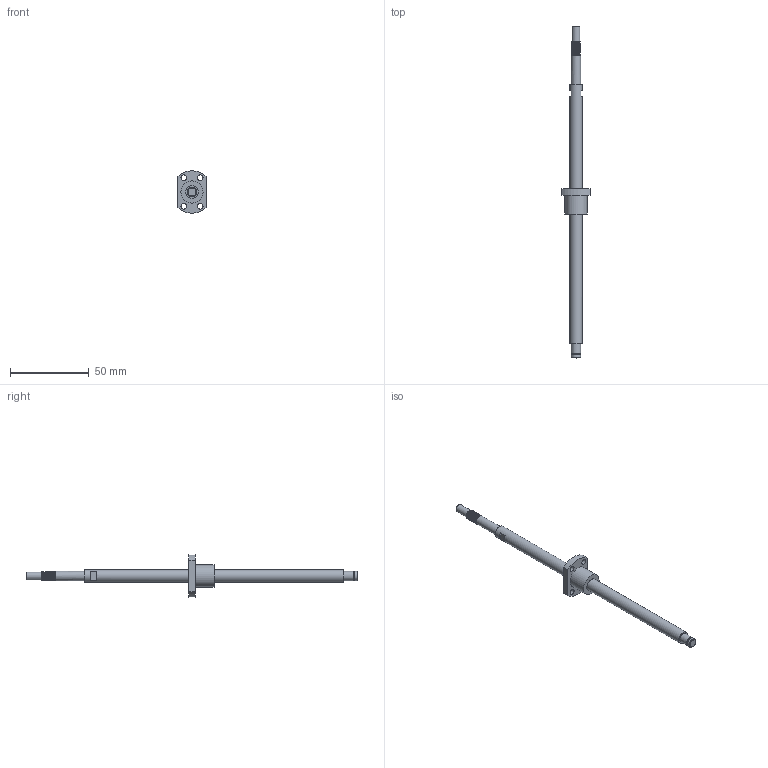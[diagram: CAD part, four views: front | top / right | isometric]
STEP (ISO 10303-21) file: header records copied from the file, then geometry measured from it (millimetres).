
FILE_DESCRIPTION(/* description */ (''),/* implementation_level */ '2;1');
FILE_NAME(/* name */ 'BSG25_asm1.stp',/* time_stamp */ '2017-01-06T13:26:22+08:00',/* author */ (''),/* organization */ (''),/* preprocessor_version */ 'ST-DEVELOPER v15',/* originating_system */ 'SIEMENS PLM Software NX 8.5',/* authorisation */ '');
FILE_SCHEMA (('AUTOMOTIVE_DESIGN { 1 0 10303 214 3 1 1 1 }'));
Length unit declared in the file: millimetre
Products named in the file (3): 01; BSG025; BSG25_asm1
Assembly tree (2 placements, depth 2):
  BSG25_asm1
    BSG025
    01
Bounding box: 18 x 211 x 26.91 mm (x, y, z)
Volume: 2677.5 mm3; surface area: 7304.8 mm2
Topology: 1 solids, 2 shells, 47 faces, 117 edges, 80 vertices
Faces by surface type: cylinder 23, plane 20, bspline 2, cone 2
Full cylindrical faces by diameter (mm): 3.5 x4, 5 x1, 5.7 x1, 6 x11, 8 x2, 14 x1
Entity records: 3579 total; most frequent: CARTESIAN_POINT 2718, DIRECTION 171, ORIENTED_EDGE 128, AXIS2_PLACEMENT_3D 76, EDGE_LOOP 71, EDGE_CURVE 64, FACE_BOUND 54, VERTEX_POINT 51
